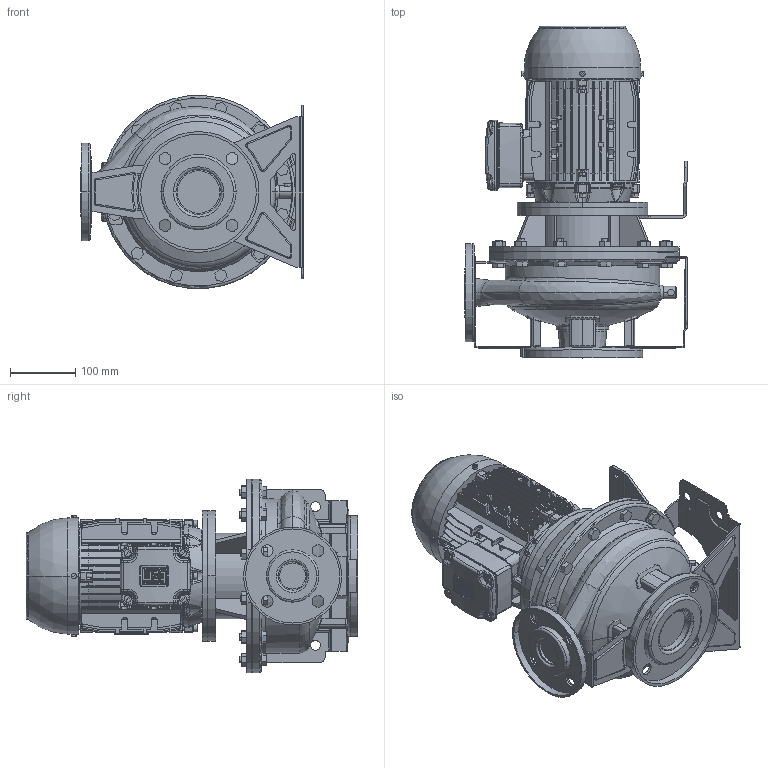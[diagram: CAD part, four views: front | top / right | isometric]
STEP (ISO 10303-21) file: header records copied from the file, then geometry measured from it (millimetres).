
FILE_DESCRIPTION (( 'STEP AP214' ), '1' );
FILE_NAME ('3LS4 40-200_1.1 & 1.5_(90SL)_W21.STEP', '2026-10-05T01:17:42', ( '' ), ( '' ), 'SwSTEP 2.0', 'SolidWorks 2024', '' );
FILE_SCHEMA (( 'AUTOMOTIVE_DESIGN' ));
Length unit declared in the file: inch
Products named in the file (3): 3SF4_40-200_1_1; 3LS4 40-200_1.1 & 1.5_(90SL)_W21; 90S_L ALIE3_W21T_B5
Assembly tree (2 placements, depth 2):
  3LS4 40-200_1.1 & 1.5_(90SL)_W21
    3SF4_40-200_1_1
    90S_L ALIE3_W21T_B5
Bounding box: 340 x 508 x 295.54 mm (x, y, z)
Volume: 12501268.3 mm3; surface area: 1359350.9 mm2
Topology: 12 solids, 16 shells, 3157 faces, 8328 edges, 5410 vertices
Faces by surface type: plane 1875, cylinder 757, bspline 219, torus 168, cone 110, sphere 28
Entity records: 160141 total; most frequent: CARTESIAN_POINT 83637, ORIENTED_EDGE 16600, DIRECTION 14739, EDGE_CURVE 8300, VERTEX_POINT 5410, LINE 5209, VECTOR 5209, AXIS2_PLACEMENT_3D 4765
